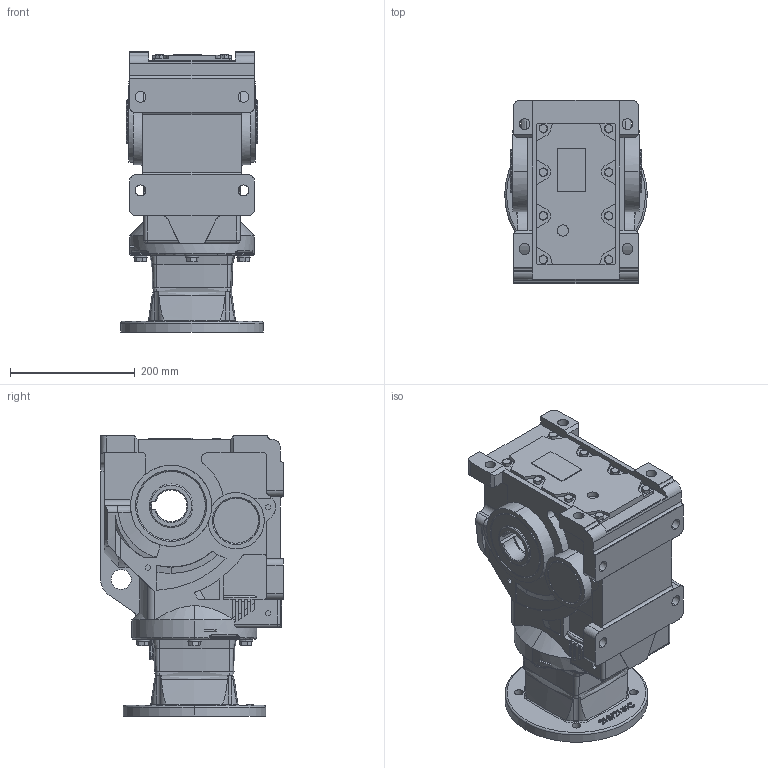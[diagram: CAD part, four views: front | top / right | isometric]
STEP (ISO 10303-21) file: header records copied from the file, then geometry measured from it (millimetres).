
FILE_DESCRIPTION (( 'STEP AP203' ), '1' );
FILE_NAME ('KHN77-213-5TC.STEP', '2022-04-08T00:43:37', ( 'Microsoft' ), ( 'Microsoft' ), 'SwSTEP 2.0', 'SolidWorks 2012', '' );
FILE_SCHEMA (( 'CONFIG_CONTROL_DESIGN' ));
Length unit declared in the file: millimetre
Products named in the file (1): KHN77-213-5TC
Bounding box: 228.6 x 293 x 449 mm (x, y, z)
Volume: 14902091 mm3; surface area: 678292.8 mm2
Topology: 1 solids, 25 shells, 1215 faces, 3142 edges, 2024 vertices
Faces by surface type: plane 601, cylinder 317, cone 146, bspline 113, torus 36, sphere 2
Entity records: 46389 total; most frequent: CARTESIAN_POINT 17318, ORIENTED_EDGE 6220, DIRECTION 5681, EDGE_CURVE 3110, VERTEX_POINT 2024, AXIS2_PLACEMENT_3D 1960, VECTOR 1761, LINE 1761
